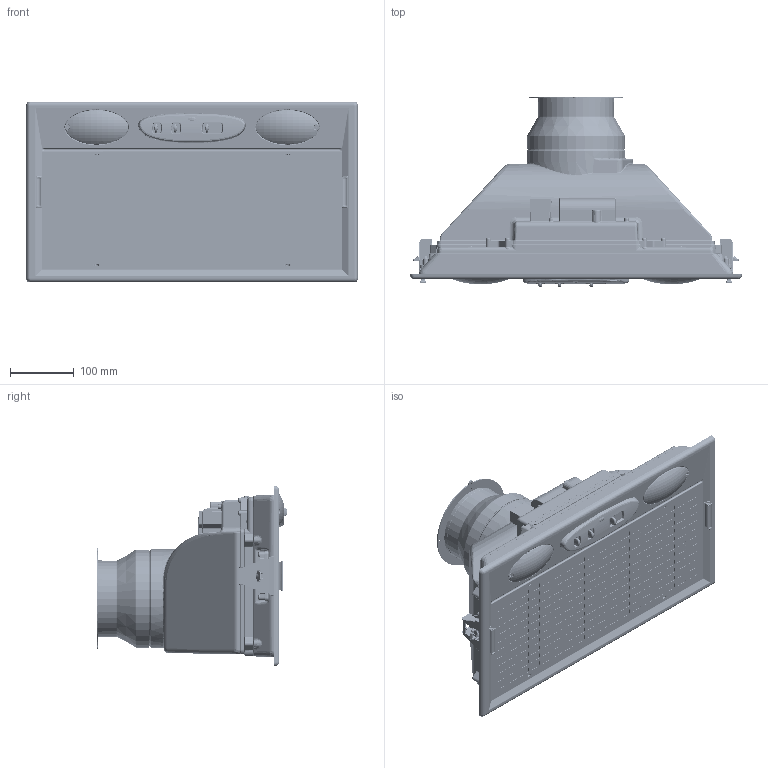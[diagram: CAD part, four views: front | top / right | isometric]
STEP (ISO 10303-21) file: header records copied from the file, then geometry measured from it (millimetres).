
FILE_DESCRIPTION((''),'2;1');
FILE_NAME('281_785_ASM','2016-06-20T',('LA978'),(''),'PRO/ENGINEER BY PARAMETRIC TECHNOLOGY CORPORATION, 2014200','PRO/ENGINEER BY PARAMETRIC TECHNOLOGY CORPORATION, 2014200','');
FILE_SCHEMA(('CONFIG_CONTROL_DESIGN'));
Products named in the file (27): 281_001; 281_111; 281_007; 281_036; 281_017; 281_016; 281_017_ASM_ASM; 281_011; 281_040; 281_007_ASM_ASM; 281_018; 281_019; 281_020; 281_041; CMM_DADO_QUADRO_M4; 281_018_ASM_ASM; 281_021; 281_022; 281_009; 281_023; D11_005; CME_FARETTO-SOLO; 281_784_ASM; 241_028; 906_244; 13_072; 281_785_ASM
Assembly tree (31 placements, depth 5):
  281_785_ASM
    281_784_ASM
      281_001
      281_111
      281_007_ASM_ASM
        281_007
        281_036  x2
        281_017_ASM_ASM  x2
          281_017
          281_016
        281_011  x2
        281_040
      281_018_ASM_ASM  x2
        281_018
        281_019
        281_020
        281_041
        CMM_DADO_QUADRO_M4
      281_021  x2
      281_022
      281_009
      281_023
      D11_005
      CME_FARETTO-SOLO
    241_028
    906_244
    13_072
Bounding box: 522 x 299.68 x 284 mm (x, y, z)
Volume: 862076.5 mm3; surface area: 1331351.1 mm2
Topology: 32 solids, 32 shells, 7781 faces, 20075 edges, 12400 vertices
Faces by surface type: plane 3412, cylinder 2531, bspline 1023, torus 406, cone 249, sphere 108, extrusion 52
Entity records: 320769 total; most frequent: CARTESIAN_POINT 150382, ORIENTED_EDGE 36764, DIRECTION 33749, EDGE_CURVE 18382, AXIS2_PLACEMENT_3D 11557, VERTEX_POINT 11359, VECTOR 10635, LINE 10601
